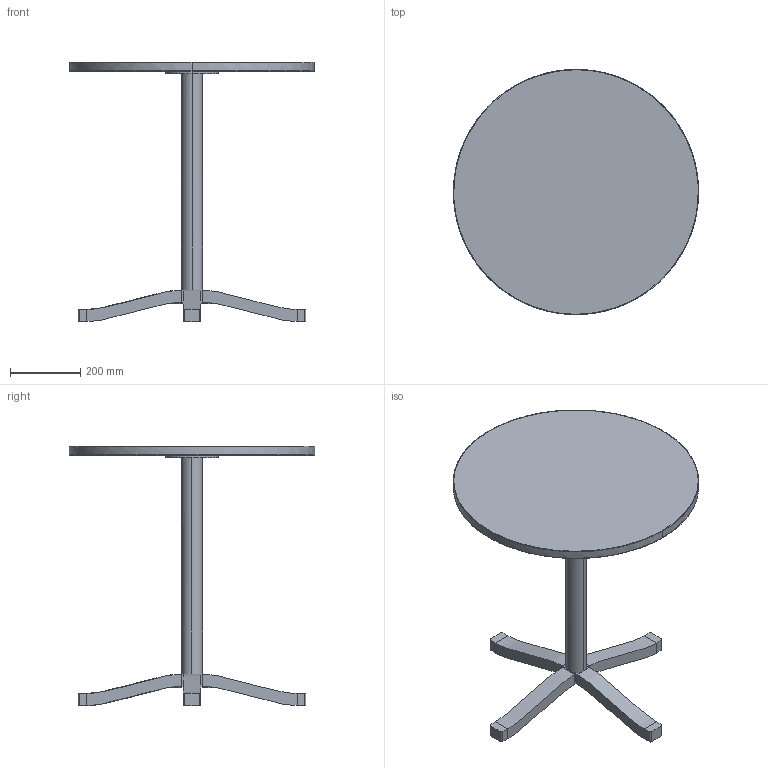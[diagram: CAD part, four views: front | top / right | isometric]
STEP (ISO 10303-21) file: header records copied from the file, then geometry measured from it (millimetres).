
FILE_DESCRIPTION(/* description */ (''),/* implementation_level */ '2;1');
FILE_NAME(/* name */ 'Pastis table 70 - 3D_internal use',/* time_stamp */ '2022-02-23T09:08:08+01:00',/* author */ (''),/* organization */ (''),/* preprocessor_version */ 'ST-DEVELOPER v16.5',/* originating_system */ '',/* authorisation */ '');
FILE_SCHEMA (('AUTOMOTIVE_DESIGN'));
Length unit declared in the file: millimetre
Products named in the file (1): Document
Bounding box: 699.65 x 700 x 740 mm (x, y, z)
Volume: 13728326.9 mm3; surface area: 1158306.5 mm2
Topology: 1 solids, 1 shells, 102 faces, 218 edges, 120 vertices
Faces by surface type: plane 54, bspline 48
Entity records: 7099 total; most frequent: CARTESIAN_POINT 5716, ORIENTED_EDGE 436, EDGE_CURVE 218, VERTEX_POINT 120, EDGE_LOOP 104, ADVANCED_FACE 102, FACE_OUTER_BOUND 102, B_SPLINE_CURVE_WITH_KNOTS 97
